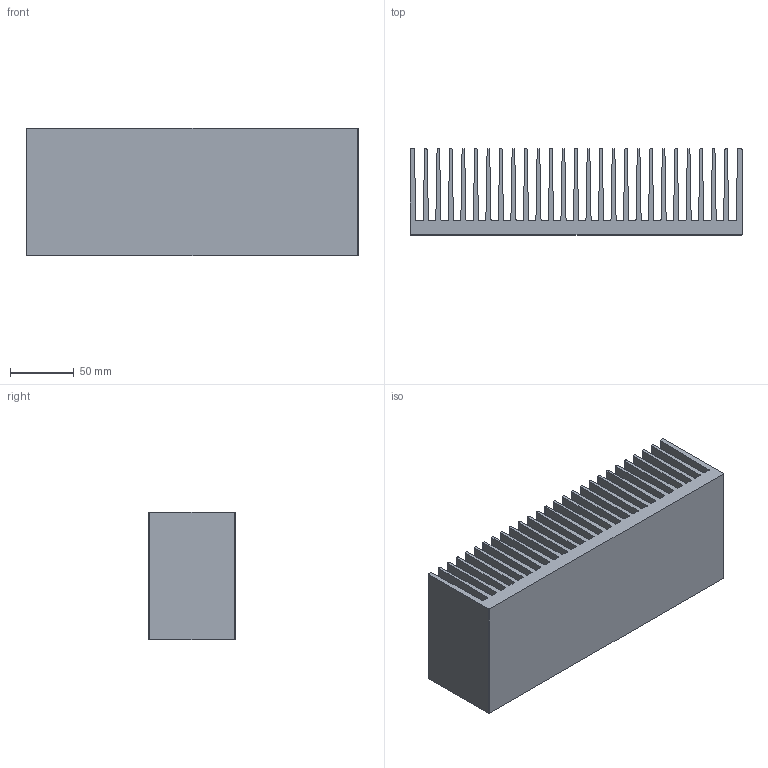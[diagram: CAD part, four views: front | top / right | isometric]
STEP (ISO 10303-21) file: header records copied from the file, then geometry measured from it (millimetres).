
FILE_DESCRIPTION (( 'STEP AP214' ), '1' );
FILE_NAME ('PR374.STEP', '2013-06-13T19:39:07', ( '' ), ( '' ), 'SwSTEP 2.0', 'SolidWorks 2013', '' );
FILE_SCHEMA (( 'AUTOMOTIVE_DESIGN' ));
Length unit declared in the file: millimetre
Products named in the file (1): PR374
Bounding box: 260 x 67.5 x 100 mm (x, y, z)
Volume: 763777.8 mm3; surface area: 364595.6 mm2
Topology: 1 solids, 1 shells, 219 faces, 651 edges, 434 vertices
Faces by surface type: plane 110, cylinder 109
Entity records: 7437 total; most frequent: DIRECTION 1309, CARTESIAN_POINT 1305, ORIENTED_EDGE 1302, EDGE_CURVE 651, AXIS2_PLACEMENT_3D 438, VERTEX_POINT 434, LINE 433, VECTOR 433
